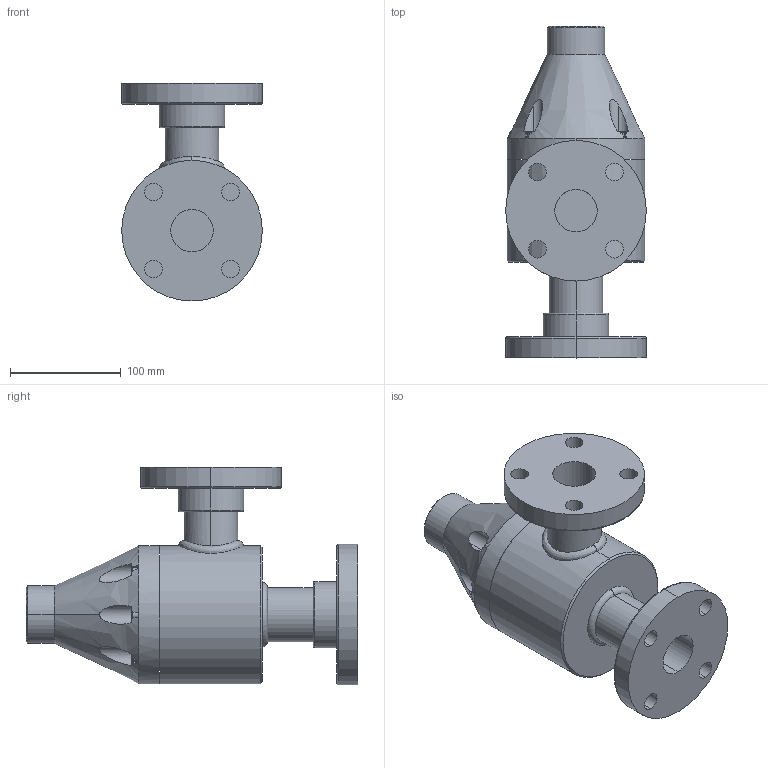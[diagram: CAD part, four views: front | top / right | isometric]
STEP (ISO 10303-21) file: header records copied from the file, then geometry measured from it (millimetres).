
FILE_DESCRIPTION (( 'STEP AP203' ), '1' );
FILE_NAME ('GBP1500_90-FLNG.STEP', '2016-02-12T10:23:47', ( '' ), ( '' ), 'SwSTEP 2.0', 'SolidWorks 2014', '' );
FILE_SCHEMA (( 'CONFIG_CONTROL_DESIGN' ));
Length unit declared in the file: inch
Products named in the file (2): GBP1500_90-FLNG
Bounding box: 127 x 299.72 x 196.85 mm (x, y, z)
Volume: 2489741.8 mm3; surface area: 195262.6 mm2
Topology: 1 solids, 1 shells, 235 faces, 582 edges, 373 vertices
Faces by surface type: plane 131, cylinder 68, torus 22, cone 12, bspline 2
Entity records: 8271 total; most frequent: CARTESIAN_POINT 2444, DIRECTION 1195, ORIENTED_EDGE 1164, EDGE_CURVE 582, AXIS2_PLACEMENT_3D 437, VERTEX_POINT 373, LINE 321, VECTOR 321
